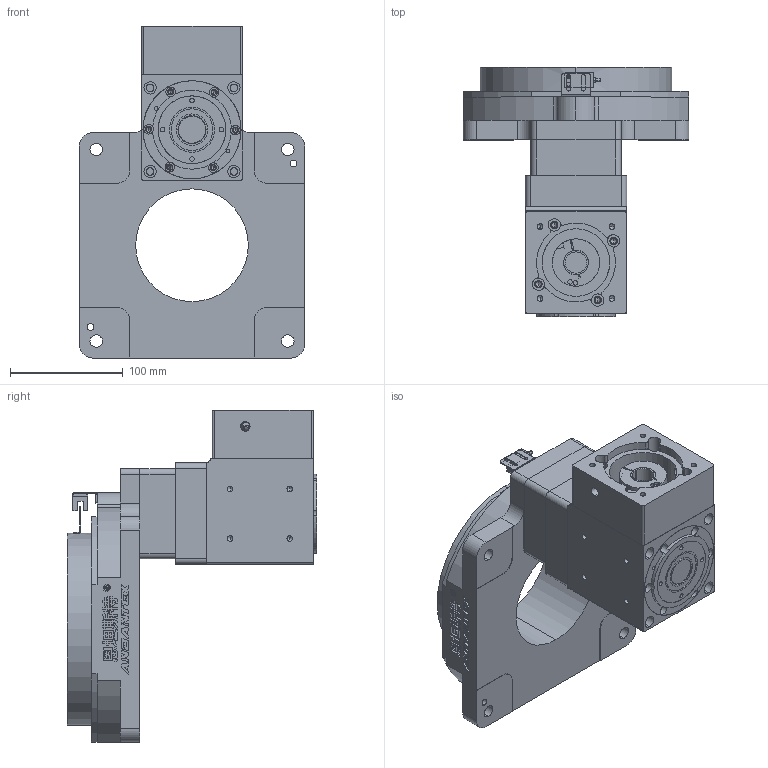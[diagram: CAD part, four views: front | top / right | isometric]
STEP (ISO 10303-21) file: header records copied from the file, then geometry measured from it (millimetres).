
FILE_DESCRIPTION(('Open CASCADE Model'),'2;1');
FILE_NAME('Open CASCADE Shape Model','2026-10-11T02:45:19',('Author'),( 'Open CASCADE'),'Open CASCADE STEP processor 7.8','Open CASCADE 7.8' ,'Unknown');
FILE_SCHEMA(('AUTOMOTIVE_DESIGN { 1 0 10303 214 1 1 1 1 }'));
Length unit declared in the file: millimetre
Products named in the file (4): NTF200-R-10-PVFD90-M7(配750W伺服 输入19-70-90-M6); NTF200-R-10-PVFD90-M7(配750W伺服 输入19-70-90-M6)-01; NTF200-R-10-PVFD90-M7(配750W伺服 输入19-70-90-M6)-02; NTF200-R-10-PVFD90-M7(配750W伺服 输入19-70-90-M6)-03
Assembly tree (3 placements, depth 2):
  NTF200-R-10-PVFD90-M7(配750W伺服 输入19-70-90-M6)
    NTF200-R-10-PVFD90-M7(配750W伺服 输入19-70-90-M6)-01
    NTF200-R-10-PVFD90-M7(配750W伺服 输入19-70-90-M6)-02
    NTF200-R-10-PVFD90-M7(配750W伺服 输入19-70-90-M6)-03
Bounding box: 200 x 221.5 x 294.5 mm (x, y, z)
Volume: 2817594.3 mm3; surface area: 442736.5 mm2
Topology: 20 solids, 20 shells, 1977 faces, 5832 edges, 3773 vertices
Faces by surface type: plane 914, cylinder 527, bspline 340, cone 196
Entity records: 226949 total; most frequent: CARTESIAN_POINT 124251, DIRECTION 15921, ORIENTED_EDGE 11460, PCURVE 11460, DEFINITIONAL_REPRESENTATION 11460, LINE 8971, VECTOR 8971, EDGE_CURVE 5730
